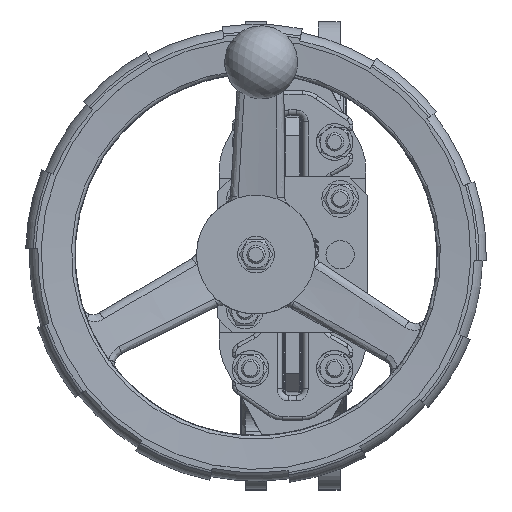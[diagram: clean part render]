
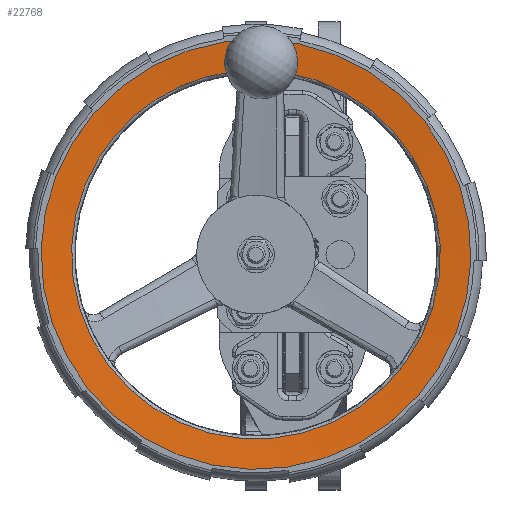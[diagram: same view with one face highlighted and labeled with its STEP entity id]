
A CAD part, top view. The second image highlights one B-rep face of the part: STEP entity #22768.
In plain terms, the highlighted conical face has half-angle 85 degrees and reference radius 108.387 mm.
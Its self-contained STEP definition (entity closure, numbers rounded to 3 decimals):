
#326=B_SPLINE_CURVE_WITH_KNOTS('',3,(#36218,#36219,#36220,#36221,#36222,
#36223),.UNSPECIFIED.,.F.,.F.,(4,2,4),(4.752,4.964,
5.265),.UNSPECIFIED.);
#327=B_SPLINE_CURVE_WITH_KNOTS('',3,(#36227,#36228,#36229,#36230,#36231,
#36232,#36233),.UNSPECIFIED.,.F.,.F.,(4,3,4),(-0.301,0.,0.212),
 .UNSPECIFIED.);
#1130=LINE('',#36358,#2865);
#2865=VECTOR('',#27095,108.387);
#4586=(
BOUNDED_CURVE()
B_SPLINE_CURVE(2,(#36291,#36292,#36293),.UNSPECIFIED.,.F.,.F.)
B_SPLINE_CURVE_WITH_KNOTS((3,3),(23.554,23.704),
 .UNSPECIFIED.)
CURVE()
GEOMETRIC_REPRESENTATION_ITEM()
RATIONAL_B_SPLINE_CURVE((1.109,1.066,1.022))
REPRESENTATION_ITEM('')
);
#4587=(
BOUNDED_CURVE()
B_SPLINE_CURVE(2,(#36353,#36354,#36355),.UNSPECIFIED.,.F.,.F.)
B_SPLINE_CURVE_WITH_KNOTS((3,3),(0.038,0.188),
 .UNSPECIFIED.)
CURVE()
GEOMETRIC_REPRESENTATION_ITEM()
RATIONAL_B_SPLINE_CURVE((1.022,1.066,1.109))
REPRESENTATION_ITEM('')
);
#4759=CONICAL_SURFACE('',#24236,108.387,1.484);
#5069=FACE_OUTER_BOUND('',#6443,.T.);
#6443=EDGE_LOOP('',(#15499,#15500,#15501,#15502,#15503,#15504,#15505,#15506,
#15507,#15508,#15509));
#7839=CIRCLE('',#24128,100.845);
#7840=CIRCLE('',#24129,100.845);
#7921=CIRCLE('',#24225,116.419);
#7925=CIRCLE('',#24237,117.5);
#7926=CIRCLE('',#24238,117.5);
#9145=VERTEX_POINT('',#33886);
#9148=VERTEX_POINT('',#33902);
#9149=VERTEX_POINT('',#33913);
#9257=VERTEX_POINT('',#36154);
#9258=VERTEX_POINT('',#36155);
#9269=VERTEX_POINT('',#36217);
#9270=VERTEX_POINT('',#36225);
#9277=VERTEX_POINT('',#36357);
#9278=VERTEX_POINT('',#36359);
#11445=EDGE_CURVE('',#9148,#9149,#7839,.T.);
#11446=EDGE_CURVE('',#9149,#9145,#7840,.T.);
#11622=EDGE_CURVE('',#9257,#9258,#7921,.T.);
#11636=EDGE_CURVE('',#9269,#9145,#326,.T.);
#11639=EDGE_CURVE('',#9148,#9270,#327,.T.);
#11644=EDGE_CURVE('',#9270,#9257,#4586,.T.);
#11650=EDGE_CURVE('',#9258,#9269,#4587,.T.);
#11651=EDGE_CURVE('',#9149,#9277,#1130,.T.);
#11652=EDGE_CURVE('',#9278,#9277,#7925,.T.);
#11653=EDGE_CURVE('',#9277,#9278,#7926,.T.);
#15499=ORIENTED_EDGE('',*,*,#11445,.F.);
#15500=ORIENTED_EDGE('',*,*,#11639,.T.);
#15501=ORIENTED_EDGE('',*,*,#11644,.T.);
#15502=ORIENTED_EDGE('',*,*,#11622,.T.);
#15503=ORIENTED_EDGE('',*,*,#11650,.T.);
#15504=ORIENTED_EDGE('',*,*,#11636,.T.);
#15505=ORIENTED_EDGE('',*,*,#11446,.F.);
#15506=ORIENTED_EDGE('',*,*,#11651,.T.);
#15507=ORIENTED_EDGE('',*,*,#11652,.F.);
#15508=ORIENTED_EDGE('',*,*,#11653,.F.);
#15509=ORIENTED_EDGE('',*,*,#11651,.F.);
#22768=ADVANCED_FACE('',(#5069),#4759,.F.);
#24128=AXIS2_PLACEMENT_3D('',#33914,#26867,#26868);
#24129=AXIS2_PLACEMENT_3D('',#33915,#26869,#26870);
#24225=AXIS2_PLACEMENT_3D('',#36156,#27063,#27064);
#24236=AXIS2_PLACEMENT_3D('',#36356,#27093,#27094);
#24237=AXIS2_PLACEMENT_3D('',#36360,#27096,#27097);
#24238=AXIS2_PLACEMENT_3D('',#36361,#27098,#27099);
#26867=DIRECTION('center_axis',(0.,0.,
1.));
#26868=DIRECTION('ref_axis',(-0.027,-1.,0.));
#26869=DIRECTION('center_axis',(0.,0.,
1.));
#26870=DIRECTION('ref_axis',(-0.027,-1.,0.));
#27063=DIRECTION('center_axis',(0.,0.,
-1.));
#27064=DIRECTION('ref_axis',(0.852,-0.523,0.));
#27093=DIRECTION('center_axis',(0.,0.,
1.));
#27094=DIRECTION('ref_axis',(0.852,-0.523,0.));
#27095=DIRECTION('',(-0.849,0.521,0.087));
#27096=DIRECTION('center_axis',(0.,0.,
-1.));
#27097=DIRECTION('ref_axis',(0.852,-0.523,0.));
#27098=DIRECTION('center_axis',(0.,0.,
-1.));
#27099=DIRECTION('ref_axis',(0.852,-0.523,0.));
#33886=CARTESIAN_POINT('',(-3.191,99.434,460.637));
#33902=CARTESIAN_POINT('',(-31.361,100.203,460.637));
#33913=CARTESIAN_POINT('',(-105.926,52.786,460.637));
#33914=CARTESIAN_POINT('Origin',(-20.,0.,
460.637));
#33915=CARTESIAN_POINT('Origin',(-20.,0.,
460.637));
#36154=CARTESIAN_POINT('',(-31.845,115.814,462.));
#36155=CARTESIAN_POINT('',(-1.856,114.996,462.));
#36156=CARTESIAN_POINT('Origin',(-20.,0.,
462.));
#36217=CARTESIAN_POINT('',(-2.141,104.552,461.094));
#36218=CARTESIAN_POINT('Ctrl Pts',(-2.141,104.552,461.094));
#36219=CARTESIAN_POINT('Ctrl Pts',(-2.161,103.825,461.031));
#36220=CARTESIAN_POINT('Ctrl Pts',(-2.234,103.108,460.968));
#36221=CARTESIAN_POINT('Ctrl Pts',(-2.523,101.429,460.819));
#36222=CARTESIAN_POINT('Ctrl Pts',(-2.801,100.418,460.728));
#36223=CARTESIAN_POINT('Ctrl Pts',(-3.191,99.434,460.637));
#36225=CARTESIAN_POINT('',(-32.13,105.37,461.094));
#36227=CARTESIAN_POINT('Ctrl Pts',(-31.361,100.203,460.637));
#36228=CARTESIAN_POINT('Ctrl Pts',(-31.697,101.206,460.728));
#36229=CARTESIAN_POINT('Ctrl Pts',(-31.919,102.231,460.819));
#36230=CARTESIAN_POINT('Ctrl Pts',(-32.035,103.224,460.907));
#36231=CARTESIAN_POINT('Ctrl Pts',(-32.116,103.923,460.968));
#36232=CARTESIAN_POINT('Ctrl Pts',(-32.15,104.643,461.031));
#36233=CARTESIAN_POINT('Ctrl Pts',(-32.13,105.37,461.094));
#36291=CARTESIAN_POINT('Ctrl Pts',(-32.13,105.37,461.094));
#36292=CARTESIAN_POINT('Ctrl Pts',(-31.994,110.349,461.526));
#36293=CARTESIAN_POINT('Ctrl Pts',(-31.845,115.814,462.));
#36353=CARTESIAN_POINT('Ctrl Pts',(-1.856,114.996,462.));
#36354=CARTESIAN_POINT('Ctrl Pts',(-2.005,109.531,461.526));
#36355=CARTESIAN_POINT('Ctrl Pts',(-2.141,104.552,461.094));
#36356=CARTESIAN_POINT('Origin',(-20.,0.,
461.297));
#36357=CARTESIAN_POINT('',(-120.117,61.504,462.095));
#36358=CARTESIAN_POINT('',(-112.352,56.734,461.297));
#36359=CARTESIAN_POINT('',(80.117,-61.504,462.095));
#36360=CARTESIAN_POINT('Origin',(-20.,0.,
462.095));
#36361=CARTESIAN_POINT('Origin',(-20.,0.,
462.095));
